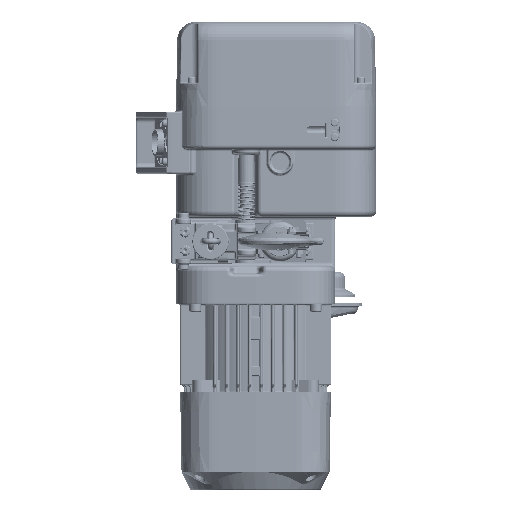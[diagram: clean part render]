
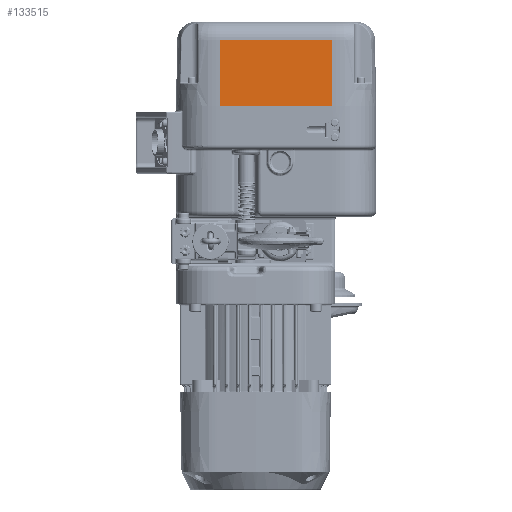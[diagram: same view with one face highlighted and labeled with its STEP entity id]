
A CAD part, front view. The second image highlights one B-rep face of the part: STEP entity #133515.
In plain terms, the highlighted planar face has unit normal (0, -1, 0.018).
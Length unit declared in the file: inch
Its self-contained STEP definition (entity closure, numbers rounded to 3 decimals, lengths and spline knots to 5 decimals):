
#784 = EDGE_CURVE ( 'NONE', #30984, #5569, #182344, .T. ) ;
#1044 = DIRECTION ( 'NONE',  ( -1., 0., 0. ) ) ;
#2085 = CARTESIAN_POINT ( 'NONE',  ( -2.41308, -3.75984, 0. ) ) ;
#3268 = CARTESIAN_POINT ( 'NONE',  ( 0., -3.71012, 2.84839 ) ) ;
#5569 = VERTEX_POINT ( 'NONE', #68645 ) ;
#7543 = ORIENTED_EDGE ( 'NONE', *, *, #219184, .F. ) ;
#15693 = CARTESIAN_POINT ( 'NONE',  ( 0., -3.75984, 0. ) ) ;
#16967 = CARTESIAN_POINT ( 'NONE',  ( 2.41308, -3.71012, 2.84839 ) ) ;
#23326 = AXIS2_PLACEMENT_3D ( 'NONE', #15693, #156749, #86790 ) ;
#27681 = DIRECTION ( 'NONE',  ( 0., -0.017, -1. ) ) ;
#30984 = VERTEX_POINT ( 'NONE', #16967 ) ;
#31759 = DIRECTION ( 'NONE',  ( 0., -0.017, -1. ) ) ;
#32182 = ORIENTED_EDGE ( 'NONE', *, *, #784, .F. ) ;
#45174 = LINE ( 'NONE', #165944, #192110 ) ;
#68645 = CARTESIAN_POINT ( 'NONE',  ( 2.41308, -3.75984, 0. ) ) ;
#69827 = VECTOR ( 'NONE', #27681, 39.37008 ) ;
#80999 = CARTESIAN_POINT ( 'NONE',  ( -2.41308, -3.71012, 2.84839 ) ) ;
#84260 = VECTOR ( 'NONE', #31759, 39.37008 ) ;
#86790 = DIRECTION ( 'NONE',  ( 0., -0.017, -1. ) ) ;
#89055 = LINE ( 'NONE', #3268, #94296 ) ;
#94296 = VECTOR ( 'NONE', #1044, 39.37008 ) ;
#95345 = VERTEX_POINT ( 'NONE', #80999 ) ;
#101493 = FACE_OUTER_BOUND ( 'NONE', #173494, .T. ) ;
#101734 = LINE ( 'NONE', #189761, #84260 ) ;
#126010 = CARTESIAN_POINT ( 'NONE',  ( 2.41308, -3.75984, 0. ) ) ;
#128915 = EDGE_CURVE ( 'NONE', #30984, #95345, #89055, .T. ) ;
#133515 = ADVANCED_FACE ( 'NONE', ( #101493 ), #189511, .T. ) ;
#145267 = ORIENTED_EDGE ( 'NONE', *, *, #195525, .T. ) ;
#156749 = DIRECTION ( 'NONE',  ( 0., -1., 0.017 ) ) ;
#165944 = CARTESIAN_POINT ( 'NONE',  ( 0., -3.75984, 0. ) ) ;
#167951 = VERTEX_POINT ( 'NONE', #2085 ) ;
#173494 = EDGE_LOOP ( 'NONE', ( #32182, #206096, #145267, #7543 ) ) ;
#178429 = DIRECTION ( 'NONE',  ( -1., 0., 0. ) ) ;
#182344 = LINE ( 'NONE', #126010, #69827 ) ;
#189511 = PLANE ( 'NONE',  #23326 ) ;
#189761 = CARTESIAN_POINT ( 'NONE',  ( -2.41308, -3.75984, 0. ) ) ;
#192110 = VECTOR ( 'NONE', #178429, 39.37008 ) ;
#195525 = EDGE_CURVE ( 'NONE', #95345, #167951, #101734, .T. ) ;
#206096 = ORIENTED_EDGE ( 'NONE', *, *, #128915, .T. ) ;
#219184 = EDGE_CURVE ( 'NONE', #5569, #167951, #45174, .T. ) ;
